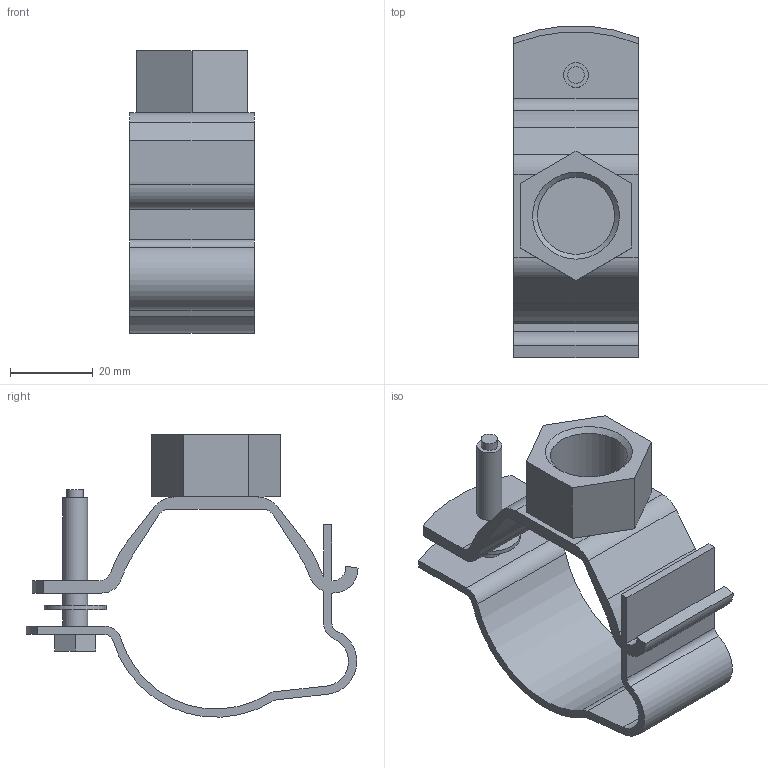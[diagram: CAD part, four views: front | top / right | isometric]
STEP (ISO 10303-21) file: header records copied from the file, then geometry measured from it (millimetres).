
FILE_DESCRIPTION( ( 'STEP AP214' ), '1' );
FILE_NAME( 'C:/Users/ilukic/Documents/ex/gebaudeentwasserung/pe/pipe bracket G1_2 adjustable/360841.stp', '2020-03-26T18:42:04', ( '' ), ( '' ), ' ', 'PARTsolutions', ' ' );
FILE_SCHEMA( ( 'AUTOMOTIVE_DESIGN { 1 0 10303 214 1 1 1 1 }' ) );
Length unit declared in the file: millimetre
Products named in the file (1): _360841
Bounding box: 30 x 80.17 x 68.16 mm (x, y, z)
Volume: 22641.2 mm3; surface area: 18087.1 mm2
Topology: 1 solids, 1 shells, 75 faces, 197 edges, 130 vertices
Faces by surface type: plane 42, cylinder 32, cone 1
Full cylindrical faces by diameter (mm): 4 x1, 6 x3, 15 x1, 18.631 x1
Entity records: 2900 total; most frequent: DIRECTION 406, CARTESIAN_POINT 394, ORIENTED_EDGE 378, EDGE_CURVE 189, AXIS2_PLACEMENT_3D 141, VERTEX_POINT 129, LINE 124, VECTOR 124
